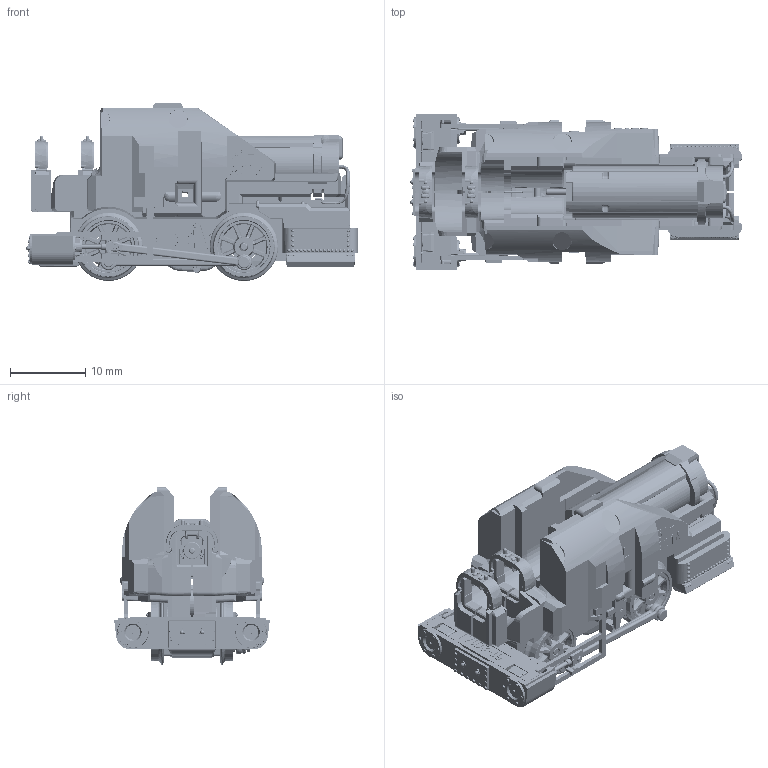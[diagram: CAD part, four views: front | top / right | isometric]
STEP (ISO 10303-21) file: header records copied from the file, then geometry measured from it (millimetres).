
FILE_DESCRIPTION(('STEP AP203'),'1');
FILE_NAME('51-201AB_ASSY(Small England).step','2021-12-24T07:03:03',(' '),(' '),'Spatial InterOp 3D',' ',' ');
FILE_SCHEMA(('CONFIG_CONTROL_DESIGN'));
Length unit declared in the file: millimetre
Products named in the file (1): 1
Bounding box: 44.11 x 20.69 x 23.65 mm (x, y, z)
Volume: 6177.4 mm3; surface area: 10251.9 mm2
Topology: 47 solids, 48 shells, 6784 faces, 18068 edges, 11490 vertices
Faces by surface type: plane 2836, cylinder 1621, cone 1394, bspline 394, torus 304, sphere 229, extrusion 4, offset 2
Entity records: 228471 total; most frequent: CARTESIAN_POINT 59520, ORIENTED_EDGE 35920, DIRECTION 35404, EDGE_CURVE 17960, AXIS2_PLACEMENT_3D 13129, VERTEX_POINT 11490, VECTOR 9146, LINE 9142
